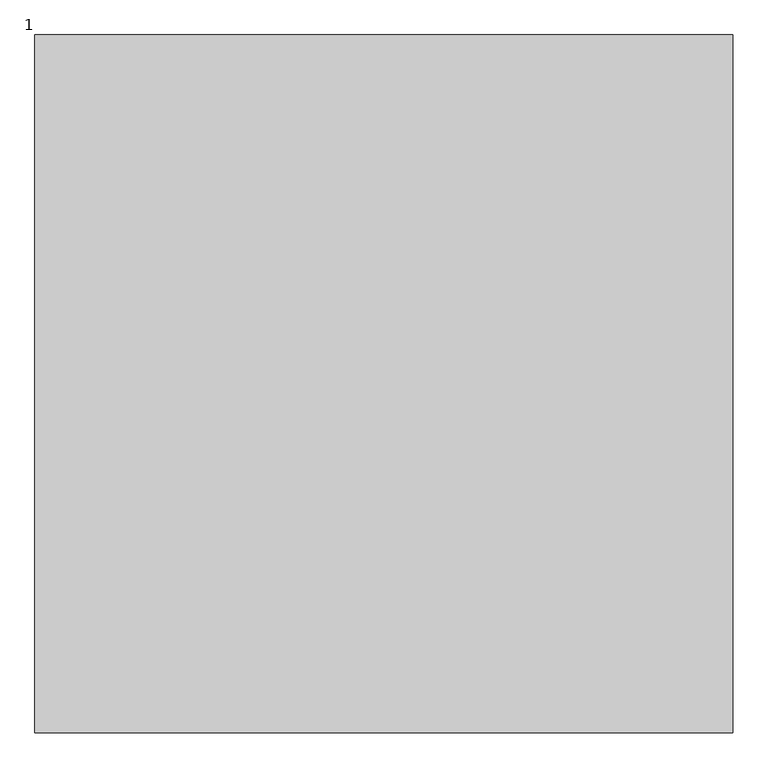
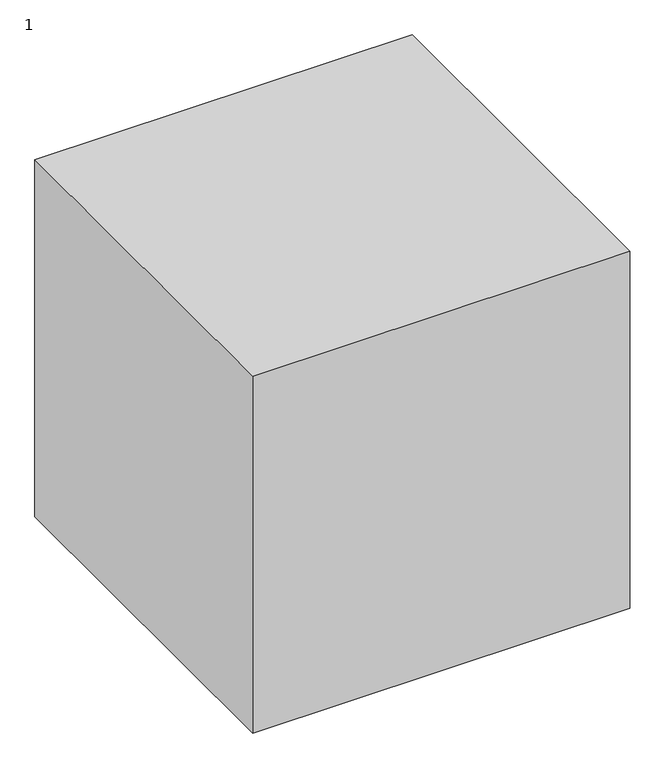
"""IFC4 building model written with IfcOpenShell, lengths in millimetres: proxy geometry, 12222111 : 1."""

from ifc_helpers import new_model, si_unit, origin, origin_with_axes, place, context, project, spatial, polyline, outline, extrude, source, transform, mapped, element, save


def proxy_1_f575b489(model_context):
    return source(origin(), model_context, "Body", "SweptSolid", [
        extrude(outline(polyline([(-14307.9756708, -4664.7705528), (-14307.9756708, -5664.7705528), (-15307.9756708, -5664.7705528), (-15307.9756708, -4664.7705528), (-14307.9756708, -4664.7705528)])), origin_with_axes(), (0.0, 0.0, 1.0), 1000.0),
    ])


if __name__ == "__main__":
    model = new_model("IFC4")
    model_context = context("Model", 3, world=origin())
    ifc_project = project(units=[si_unit("LENGTHUNIT", "METRE", prefix="MILLI")], contexts=[model_context])
    site = spatial("IfcSite", under=ifc_project)
    building = spatial("IfcBuilding", under=site)
    placement = place(None, origin())
    proxy_1_shape = proxy_1_f575b489(model_context)
    element("IfcBuildingElementProxy", 1, Name="12222111 : 1", ObjectType="12222111 : 1", at=placement, inside=building, context=model_context, shape_type="MappedRepresentation", body=[
        mapped(proxy_1_shape, transform((0.0, 0.0, 0.0), x_axis=(1.0, 0.0, 0.0), y_axis=(0.0, 1.0, 0.0), z_axis=(0.0, 0.0, 1.0))),
    ])
    save(model, "model.ifc")
